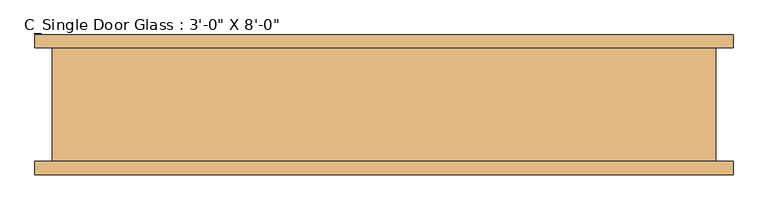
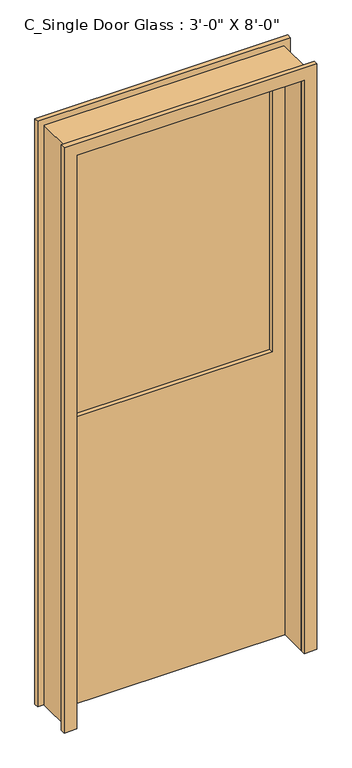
"""IFC4 building model written with IfcOpenShell, lengths in millimetres: door geometry."""

import ifcopenshell
import ifcopenshell.guid

model = None  # the IFC model being written
_history = None  # IfcOwnerHistory: only IFC2X3 demands one
_inside = {}  # id of a spatial element -> (the spatial element, [elements in it])
_under = {}  # id of a project, library or spatial element -> (it, [spatial elements below it])
_declared = {}  # id of a project -> (the project, [libraries it declares])
_typed = {}  # id of a type object -> (the type object, [elements of that type])
_made_of = {}  # id of a material, layer set ... -> (it, [elements and type objects made of it])


def new_model(schema):
    """Start an empty IFC model of exactly this schema.

    Asked for "IFC4X3", IfcOpenShell would pick the latest addendum, in which some entities
    have other attributes; the version numbers below select the first issue.
    IFC2X3 requires an IfcOwnerHistory on every rooted entity: one is made here for all.
    """
    global model, _history
    if schema == "IFC4X3":
        model = ifcopenshell.file(schema_version=(4, 3, 0, 0))
    else:
        model = ifcopenshell.file(schema=schema)
    _inside.clear()
    _under.clear()
    _declared.clear()
    _typed.clear()
    _made_of.clear()
    _history = None
    if model.schema == "IFC2X3":
        org = make("IfcOrganization", Name="unknown")
        user = make(
            "IfcPersonAndOrganization",
            ThePerson=make("IfcPerson", FamilyName="unknown"),
            TheOrganization=org,
        )
        app = make(
            "IfcApplication",
            ApplicationDeveloper=org,
            Version="unknown",
            ApplicationFullName="unknown",
            ApplicationIdentifier="unknown",
        )
        _history = make(
            "IfcOwnerHistory",
            OwningUser=user,
            OwningApplication=app,
            ChangeAction="ADDED",
            CreationDate=0,
        )
    return model


def make(cls, **values):
    """One entity of the class cls with the attributes given. An attribute that is None is left unset."""
    return model.create_entity(
        cls, **{name: value for name, value in values.items() if value is not None}
    )


def rooted(cls, **values):
    """An entity with a GlobalId (a new one), such as an element, a storey or a relation."""
    return make(cls, GlobalId=ifcopenshell.guid.new(), OwnerHistory=_history, **values)


def si_unit(unit_type, name, prefix=None):
    """IfcSIUnit, for example si_unit("LENGTHUNIT", "METRE", prefix="MILLI")."""
    return make("IfcSIUnit", UnitType=unit_type, Prefix=prefix, Name=name)


def assignment(units):
    """IfcUnitAssignment: the units of a project."""
    return None if units is None else make("IfcUnitAssignment", Units=units)


def point(xyz):
    """IfcCartesianPoint."""
    return None if xyz is None else make("IfcCartesianPoint", Coordinates=xyz)


def direction(xyz):
    """IfcDirection."""
    return None if xyz is None else make("IfcDirection", DirectionRatios=xyz)


def frame(location, z_axis=None, x_axis=None):
    """IfcAxis2Placement3D, a coordinate frame: its origin and axes. An axis left out is left unset."""
    return make(
        "IfcAxis2Placement3D",
        Location=point(location),
        Axis=direction(z_axis),
        RefDirection=direction(x_axis),
    )


def origin():
    """The frame at (0, 0, 0) with its axes left unset."""
    return frame((0.0, 0.0, 0.0))


def place(relative_to, where):
    """IfcLocalPlacement: puts the frame where relative to a parent placement (None: the world)."""
    return make(
        "IfcLocalPlacement", PlacementRelTo=relative_to, RelativePlacement=where
    )


def context(
    kind, dimensions, precision=None, world=None, true_north=None, identifier=None
):
    """IfcGeometricRepresentationContext, for example the 3D "Model" context."""
    return make(
        "IfcGeometricRepresentationContext",
        ContextIdentifier=identifier,
        ContextType=kind,
        CoordinateSpaceDimension=dimensions,
        Precision=precision,
        WorldCoordinateSystem=world,
        TrueNorth=true_north,
    )


def project(units=None, contexts=None):
    """IfcProject with its units and contexts."""
    return rooted(
        "IfcProject",
        Name="project",
        RepresentationContexts=contexts,
        UnitsInContext=assignment(units),
    )


def spatial(cls, under=None, at=None, **own):
    """A site, building, storey or space (cls), placed at a placement, below another one or the project."""
    s = rooted(cls, ObjectPlacement=at, **own)
    if under is not None:
        _under.setdefault(under.id(), (under, []))[1].append(s)
    return s


def polyline(points):
    """IfcPolyline through the points."""
    return make("IfcPolyline", Points=[point(p) for p in points])


def outline(outer, holes=None, kind="AREA"):
    """IfcArbitraryClosedProfileDef: a profile drawn as a closed curve; with holes, ...WithVoids."""
    if holes is None:
        return make("IfcArbitraryClosedProfileDef", ProfileType=kind, OuterCurve=outer)
    return make(
        "IfcArbitraryProfileDefWithVoids",
        ProfileType=kind,
        OuterCurve=outer,
        InnerCurves=holes,
    )


def extrude(swept, where, along, depth):
    """IfcExtrudedAreaSolid: the profile swept, set in the frame where, extruded along a direction by depth."""
    return make(
        "IfcExtrudedAreaSolid",
        SweptArea=swept,
        Position=where,
        ExtrudedDirection=direction(along),
        Depth=depth,
    )


def shape(context_of_items, identifier, shape_type, items):
    """IfcShapeRepresentation: the items that make up one representation, for example the "Body"."""
    return make(
        "IfcShapeRepresentation",
        ContextOfItems=context_of_items,
        RepresentationIdentifier=identifier,
        RepresentationType=shape_type,
        Items=items,
    )


def source(mapping_origin, context_of_items, identifier, shape_type, items):
    """IfcRepresentationMap: a shape defined once, which mapped items show again and again."""
    return make(
        "IfcRepresentationMap",
        MappingOrigin=mapping_origin,
        MappedRepresentation=shape(context_of_items, identifier, shape_type, items),
    )


def transform(
    local_origin,
    x_axis=None,
    y_axis=None,
    z_axis=None,
    scale=None,
    scale2=None,
    scale3=None,
    uniform=True,
):
    """IfcCartesianTransformationOperator3D, or its non-uniform kind. x_axis, y_axis, z_axis: its Axis1, 2, 3."""
    if uniform:
        return make(
            "IfcCartesianTransformationOperator3D",
            Axis1=direction(x_axis),
            Axis2=direction(y_axis),
            LocalOrigin=point(local_origin),
            Scale=scale,
            Axis3=direction(z_axis),
        )
    return make(
        "IfcCartesianTransformationOperator3DnonUniform",
        Axis1=direction(x_axis),
        Axis2=direction(y_axis),
        LocalOrigin=point(local_origin),
        Scale=scale,
        Axis3=direction(z_axis),
        Scale2=scale2,
        Scale3=scale3,
    )


def mapped(mapping_source, mapping_target):
    """IfcMappedItem: shows the shape of a source again, moved by a transform."""
    return make(
        "IfcMappedItem", MappingSource=mapping_source, MappingTarget=mapping_target
    )


def made_of(thing, what):
    """Note that an element or type object is made of a material, layer set ...; save() writes the relation."""
    if what is not None:
        _made_of.setdefault(what.id(), (what, []))[1].append(thing)
    return thing


def element(
    cls,
    number,
    at=None,
    inside=None,
    cuts=None,
    type_object=None,
    material=None,
    context=None,
    identifier="Body",
    shape_type=None,
    held_by="IfcProductDefinitionShape",
    body=None,
    shapes=None,
    **own,
):
    """One element of the class cls, such as IfcWall. Its Tag is "e" and its number.

    at: its placement. inside: the storey or other place that contains it. cuts: it is an
    opening in that element (IfcRelVoidsElement). A single representation is given by context,
    identifier, shape_type and body (its items); several are given by shapes. held_by: the class
    of the entity that holds the representations. save() writes the other relations.
    """
    e = rooted(cls, Tag="e%d" % number, ObjectPlacement=at, **own)
    if body is not None:
        shapes = [shape(context, identifier, shape_type, body)]
    if shapes is not None:
        e.Representation = make(held_by, Representations=shapes)
    if inside is not None:
        _inside.setdefault(inside.id(), (inside, []))[1].append(e)
    if cuts is not None:
        rooted(
            "IfcRelVoidsElement", RelatingBuildingElement=cuts, RelatedOpeningElement=e
        )
    if type_object is not None:
        _typed.setdefault(type_object.id(), (type_object, []))[1].append(e)
    return made_of(e, material)


def aggregate(whole, parts):
    """IfcRelAggregates: a whole, such as a stair, and the parts it consists of."""
    return rooted("IfcRelAggregates", RelatingObject=whole, RelatedObjects=parts)


def save(model, path):
    """Write the relations noted so far, then the file.

    IfcRelAggregates (storeys below a building ...), IfcRelContainedInSpatialStructure (elements
    in a storey), IfcRelDefinesByType, IfcRelAssociatesMaterial and IfcRelDeclares: one each for
    every whole, place, type object, material and project.
    """
    for whole, parts in _under.values():
        aggregate(whole, parts)
    for where, things in _inside.values():
        rooted(
            "IfcRelContainedInSpatialStructure",
            RelatedElements=things,
            RelatingStructure=where,
        )
    for kind, things in _typed.values():
        rooted("IfcRelDefinesByType", RelatedObjects=things, RelatingType=kind)
    for what, things in _made_of.values():
        rooted("IfcRelAssociatesMaterial", RelatedObjects=things, RelatingMaterial=what)
    for by, libraries in _declared.values():
        rooted("IfcRelDeclares", RelatingContext=by, RelatedDefinitions=libraries)
    model.write(path)


def door_cd79e99e(model_context):
    return source(origin(), model_context, "Body", "SweptSolid", [
        extrude(outline(polyline([(-406.4, 50.8), (-406.4, 63.5), (406.4, 63.5), (406.4, 50.8), (-406.4, 50.8)])), frame((0.0, 0.0, 1219.2), z_axis=(0.0, 0.0, 1.0), x_axis=(1.0, 0.0, 0.0)), (0.0, 0.0, 1.0), 1168.4),
        extrude(outline(polyline([(2438.4, 457.2), (2438.4, -457.2), (0.0, -457.2), (0.0, 457.2), (2438.4, 457.2)]), holes=[polyline([(2387.6, -406.4), (2387.6, 406.4), (1219.2, 406.4), (1219.2, -406.4), (2387.6, -406.4)])]), frame((0.0, 31.75, 0.0), z_axis=(0.0, 1.0, 0.0), x_axis=(0.0, 0.0, 1.0)), (0.0, 0.0, 1.0), 50.8),
        extrude(outline(polyline([(2438.4, -457.2), (2438.4, 457.2), (0.0, 457.2), (0.0, 508.0), (2489.2, 508.0), (2489.2, -508.0), (0.0, -508.0), (0.0, -457.2), (2438.4, -457.2)])), frame((0.0, 82.55, 0.0), z_axis=(0.0, 1.0, 0.0), x_axis=(0.0, 0.0, 1.0)), (0.0, 0.0, 1.0), 19.05),
        extrude(outline(polyline([(2438.4, -457.2), (2438.4, 457.2), (0.0, 457.2), (0.0, 508.0), (2489.2, 508.0), (2489.2, -508.0), (0.0, -508.0), (0.0, -457.2), (2438.4, -457.2)])), frame((0.0, -101.6, 0.0), z_axis=(0.0, 1.0, 0.0), x_axis=(0.0, 0.0, 1.0)), (0.0, 0.0, 1.0), 19.05),
        extrude(outline(polyline([(0.0, -457.2), (2438.4, -457.2), (2438.4, 457.2), (0.0, 457.2), (0.0, 482.6), (2463.8, 482.6), (2463.8, -482.6), (0.0, -482.6), (0.0, -457.2)])), frame((0.0, -82.55, 0.0), z_axis=(0.0, 1.0, 0.0), x_axis=(0.0, 0.0, 1.0)), (0.0, 0.0, 1.0), 165.1),
    ])


if __name__ == "__main__":
    model = new_model("IFC4")
    model_context = context("Model", 3, world=origin())
    ifc_project = project(units=[si_unit("LENGTHUNIT", "METRE", prefix="MILLI")], contexts=[model_context])
    site = spatial("IfcSite", under=ifc_project)
    building = spatial("IfcBuilding", under=site)
    placement = place(None, origin())
    door_shape = door_cd79e99e(model_context)
    element("IfcDoor", 1, ObjectType="C_Single Door Glass : 3'-0\" X 8'-0\"", at=placement, inside=building, context=model_context, shape_type="MappedRepresentation", body=[
        mapped(door_shape, transform((0.0, 0.0, 0.0), x_axis=(1.0, 0.0, 0.0), y_axis=(0.0, 1.0, 0.0), z_axis=(0.0, 0.0, 1.0))),
    ])
    save(model, "model.ifc")
